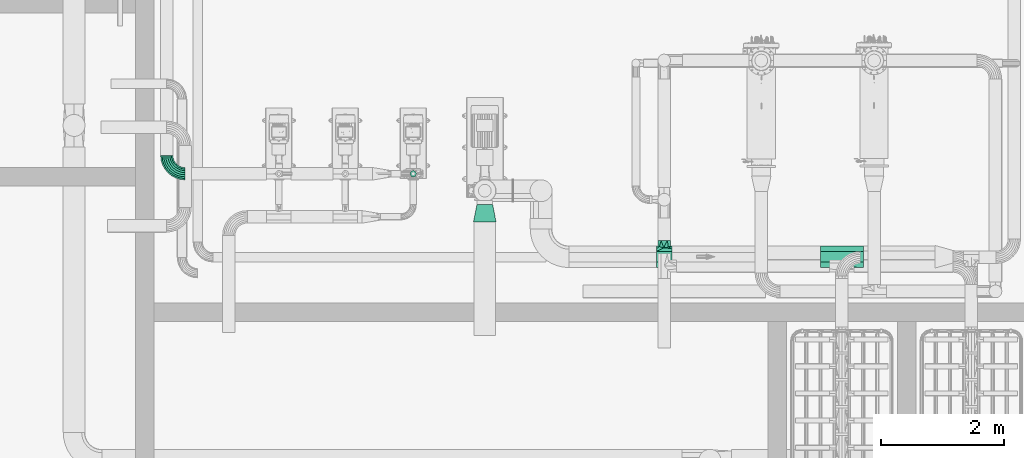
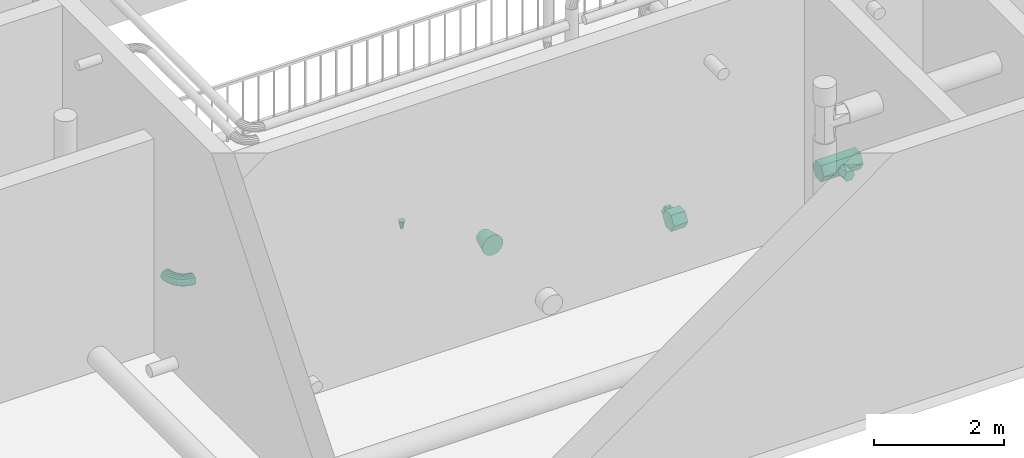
# One storey, part 26 of 28: 5 flow fittings.
"""IFC2X3 building model written with IfcOpenShell, lengths in millimetres."""

from ifc_helpers import new_model, entity, si_unit, converted_unit, direction, frame, origin, place, context, subcontext, project, spatial, faceted_brep, source, transform, mapped, material, type_object, type_shapes, element, save


model = new_model("IFC2X3")

# Units and contexts
model_context = context("Model", 3, precision=0.01, world=origin(), true_north=direction((6.123031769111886e-17, 1.0)))
body_context = subcontext(model_context, "Body", "Model", "MODEL_VIEW")
ifc_project = project(units=[si_unit("LENGTHUNIT", "METRE", prefix="MILLI"), converted_unit("PLANEANGLEUNIT", "DEGREE", entity("IfcPlaneAngleMeasure", 0.017453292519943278), si_unit("PLANEANGLEUNIT", "RADIAN"), dimensions=[0, 0, 0, 0, 0, 0, 0]), si_unit("AREAUNIT", "SQUARE_METRE")], contexts=[model_context])

# Site, building, storey
site_placement = place(None, frame((7776.576483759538, 118.3519876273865, 0.0)))
site = spatial("IfcSite", under=ifc_project, at=site_placement, Name="Default", CompositionType="ELEMENT")
building_placement = place(site_placement, origin())
building = spatial("IfcBuilding", under=site, at=building_placement, Name="Bygning (endres i Project Information)", CompositionType="ELEMENT")
storey_placement = place(building_placement, frame((0.0, 0.0, 14000.0)))
storey = spatial("IfcBuildingStorey", under=building, at=storey_placement, Name="Plan U1 - Arbeid", CompositionType="ELEMENT", Elevation=14000.000000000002)

# Flow fittings
ifc_material_1 = material(Name="SS 2343 Rustfritt stål, prosessrør, generisk")
pipe_fitting_type_1 = type_object("IfcPipeFittingType", Name="VA_prosess_rustfritt_T_D=L:T-rør_prosess_D=L", PredefinedType="NOTDEFINED", material=ifc_material_1)
shared_shape_1 = source(origin(), body_context, "Body", "Brep", [
    faceted_brep([(-350.0, -175.0, 0.0), (-350.0, -131.24999999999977, 75.77722283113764), (-350.0, -87.50000000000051, 151.55444566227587), (-350.0, 0.0, 151.55444566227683), (-350.0, 87.49999999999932, 151.55444566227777), (-350.0, 131.25000000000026, 75.77722283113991), (-350.0, 175.0, 0.0), (-350.0, 131.25000000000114, -75.77722283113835), (-350.0, 87.50000000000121, -151.5544456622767), (-350.0, 0.0, -151.55444566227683), (-350.0, -87.49999999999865, -151.55444566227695), (-350.0, -131.2499999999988, -75.77722283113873), (350.0, 175.0, 0.0), (350.0, 119.86366475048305, 95.49893399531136), (350.0, 87.4999999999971, 151.55444566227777), (350.0, 0.0, 151.55444566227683), (350.0, -87.50000000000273, 151.55444566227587), (350.0, -131.25000000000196, 75.77722283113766), (350.0, -175.0, 0.0), (350.0, -131.25000000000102, -75.77722283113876), (350.0, -87.50000000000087, -151.55444566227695), (350.0, 0.0, -151.55444566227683), (350.0, 87.49999999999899, -151.5544456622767), (350.0, 131.2499999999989, -75.77722283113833), (100.0, -175.0, 0.0), (78.66194669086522, -163.74584531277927, 61.74381056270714), (8.44316933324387, -143.86204193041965, 99.64292695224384), (-100.0, -175.0, 0.0), (-67.69200706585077, -158.76777954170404, 73.60565317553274), (-8.465752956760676, -143.86336911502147, -99.64101076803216), (67.68437248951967, -158.7645246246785, -73.61267364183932), (-78.66751262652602, -163.74851920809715, -61.73671887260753), (50.0, -350.0, -86.60254037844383), (75.0, -350.0, -43.30127018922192), (100.0, -350.0, 0.0), (75.0, -350.0, 43.301270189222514), (50.0, -350.0, 86.60254037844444), (0.0, -350.0, 86.60254037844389), (-50.0, -350.0, 86.60254037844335), (-75.0, -350.0, 43.30127018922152), (-100.0, -350.0, 0.0), (-75.0, -350.0, -43.301270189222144), (-50.0, -350.0, -86.60254037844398), (0.0, -350.0, -86.60254037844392)], [[[0, 1, 2, 3, 4, 5, 6, 7, 8, 9, 10, 11]], [[12, 13, 14, 15, 16, 17, 18, 19, 20, 21, 22, 23]], [[24, 18, 25]], [[17, 16, 26]], [[3, 2, 16, 15, 14, 4]], [[27, 28, 0]], [[25, 18, 17]], [[0, 28, 1]], [[26, 1, 28]], [[4, 14, 13, 12, 6, 5]], [[2, 1, 26]], [[2, 26, 16]], [[26, 25, 17]], [[29, 10, 20]], [[23, 22, 8, 7, 6, 12]], [[21, 20, 10, 9, 8, 22]], [[30, 18, 24]], [[29, 20, 19]], [[29, 19, 30]], [[11, 10, 29]], [[31, 0, 11]], [[27, 0, 31]], [[11, 29, 31]], [[30, 19, 18]], [[32, 33, 34, 35, 36, 37, 38, 39, 40, 41, 42, 43]], [[27, 39, 28]], [[39, 27, 40]], [[25, 36, 35]], [[26, 28, 38]], [[24, 35, 34]], [[26, 36, 25]], [[39, 38, 28]], [[26, 38, 37, 36]], [[35, 24, 25]], [[24, 33, 30]], [[33, 24, 34]], [[31, 42, 41]], [[29, 30, 32]], [[27, 41, 40]], [[29, 42, 31]], [[33, 32, 30]], [[29, 32, 43, 42]], [[41, 27, 31]]]),
])
type_shapes(pipe_fitting_type_1, [shared_shape_1])
flow_fitting_1_placement = place(storey_placement, frame((28974.00137486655, 25247.757305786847, 203.0), z_axis=(0.0, 0.0, -1.0), x_axis=(-1.0, 0.0, 0.0)))
element("IfcFlowFitting", 1, at=flow_fitting_1_placement, inside=storey, type_object=pipe_fitting_type_1, material=ifc_material_1, Name="VA_prosess_rustfritt_T_D=L:T-rør_prosess_D=L", ObjectType="VA_prosess_rustfritt_T_D=L:T-rør_prosess_D=L", context=body_context, shape_type="MappedRepresentation", body=[
    mapped(shared_shape_1, transform((0.0, 0.0, 0.0), scale=1.0)),
])
pipe_fitting_type_2 = type_object("IfcPipeFittingType", Name="Overganger, konsentriske, rustfritt EN 1,4307304L:Standard", PredefinedType="NOTDEFINED", material=ifc_material_1)
shared_shape_2 = source(origin(), body_context, "Body", "Brep", [
    faceted_brep([(289.70000000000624, -47.57094048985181, 177.53716687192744), (289.7000000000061, -91.90000000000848, 159.17546921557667), (289.70000000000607, -129.96622638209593, 129.96622638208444), (289.700000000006, -159.17546921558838, 91.89999999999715), (289.70000000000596, -177.53716687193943, 47.570940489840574), (289.70000000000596, -183.80000000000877, 0.0), (289.70000000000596, -177.53716687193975, -47.57094048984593), (289.700000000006, -159.175469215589, -91.90000000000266), (289.70000000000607, -129.9662263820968, -129.9662263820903), (289.7000000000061, -91.90000000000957, -159.1754692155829), (289.70000000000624, -47.57094048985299, -177.5371668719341), (289.7000000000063, 0.0, -183.8000000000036), (289.70000000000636, 47.57094048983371, -177.5371668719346), (289.7000000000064, 91.89999999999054, -159.17546921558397), (289.70000000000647, 129.96622638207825, -129.96622638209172), (289.7000000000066, 159.1754692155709, -91.90000000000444), (289.7000000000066, 177.53716687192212, -47.57094048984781), (289.7000000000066, 183.79999999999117, 0.0), (289.7000000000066, 177.53716687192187, 47.57094048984), (289.7000000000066, 159.17546921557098, 91.89999999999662), (289.70000000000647, 129.96622638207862, 129.966226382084), (289.7000000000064, 91.89999999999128, 159.17546921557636), (289.70000000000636, 47.57094048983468, 177.53716687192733), (289.7000000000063, 0.0, 183.79999999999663), (0.0, 0.0, 127.0), (0.0, 39.245158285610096, 120.78417756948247), (0.0, 74.64872704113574, 102.74515828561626), (0.0, 102.7451582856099, 74.64872704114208), (0.0, 120.78417756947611, 39.245158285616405), (0.0, 127.0, 0.0), (0.0, 120.78417756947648, -39.245158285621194), (0.0, 102.74515828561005, -74.6487270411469), (0.0, 74.64872704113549, -102.74515828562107), (0.0, 39.24515828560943, -120.78417756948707), (0.0, 0.0, -127.0), (0.0, -39.24515828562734, -120.78417756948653), (0.0, -74.6487270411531, -102.74515828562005), (0.0, -102.74515828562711, -74.64872704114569), (0.0, -120.78417756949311, -39.24515828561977), (0.0, -127.0, 0.0), (0.0, -120.78417756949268, 39.24515828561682), (0.0, -102.7451582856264, 74.64872704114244), (0.0, -74.64872704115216, 102.74515828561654), (0.0, -39.245158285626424, 120.7841775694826)], [[[0, 1, 2, 3, 4, 5, 6, 7, 8, 9, 10, 11, 12, 13, 14, 15, 16, 17, 18, 19, 20, 21, 22, 23]], [[24, 25, 26, 27, 28, 29, 30, 31, 32, 33, 34, 35, 36, 37, 38, 39, 40, 41, 42, 43]], [[6, 39, 38]], [[37, 7, 38]], [[9, 36, 35]], [[8, 37, 36]], [[10, 35, 34]], [[6, 5, 39]], [[7, 6, 38]], [[36, 9, 8]], [[8, 7, 37]], [[10, 9, 35]], [[34, 11, 10]], [[11, 34, 12]], [[12, 34, 33]], [[32, 13, 33]], [[15, 31, 30]], [[14, 32, 31]], [[16, 30, 29]], [[33, 13, 12]], [[32, 14, 13]], [[15, 14, 31]], [[30, 16, 15]], [[29, 17, 16]], [[18, 29, 28]], [[27, 19, 28]], [[21, 26, 25]], [[20, 27, 26]], [[22, 25, 24]], [[18, 17, 29]], [[19, 18, 28]], [[26, 21, 20]], [[20, 19, 27]], [[22, 21, 25]], [[24, 23, 22]], [[23, 24, 0]], [[0, 24, 43]], [[42, 1, 43]], [[3, 41, 40]], [[2, 42, 41]], [[4, 40, 39]], [[43, 1, 0]], [[42, 2, 1]], [[3, 2, 41]], [[40, 4, 3]], [[39, 5, 4]]]),
])
type_shapes(pipe_fitting_type_2, [shared_shape_2])
flow_fitting_2_placement = place(storey_placement, frame((23184.001374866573, 26098.199911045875, 380.0), z_axis=(0.0, 0.0, 1.0), x_axis=(0.0, -1.0, 0.0)))
element("IfcFlowFitting", 2, at=flow_fitting_2_placement, inside=storey, type_object=pipe_fitting_type_2, material=ifc_material_1, Name="Overganger, konsentriske, rustfritt EN 1,4307304L:Standard", ObjectType="Overganger, konsentriske, rustfritt EN 1,4307304L:Standard", context=body_context, shape_type="MappedRepresentation", body=[
    mapped(shared_shape_2, transform((0.0, 0.0, 0.0), scale=1.0)),
])
pipe_fitting_type_3 = type_object("IfcPipeFittingType", Name="Overganger, konsentriske, rustfritt EN 1,4307304L:Standard", PredefinedType="NOTDEFINED", material=ifc_material_1)
shared_shape_3 = source(origin(), body_context, "Body", "Brep", [
    faceted_brep([(150.0, -27.0, 0.0), (150.0, -24.42172942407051, -7.93510090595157), (150.0, -21.843458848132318, -15.870201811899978), (150.0, -15.093458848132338, -20.774363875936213), (150.0, -8.343458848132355, -25.678525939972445), (150.0, 0.0, -25.67852593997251), (150.0, 8.343458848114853, -25.678525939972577), (150.0, 15.093458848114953, -20.77436387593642), (150.0, 21.843458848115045, -15.870201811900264), (150.0, 24.421729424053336, -7.93510090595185), (150.0, 27.0, 0.0), (150.0, 24.421729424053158, 7.935100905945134), (150.0, 21.843458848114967, 15.870201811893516), (150.0, 15.093458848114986, 20.774363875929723), (150.0, 8.343458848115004, 25.678525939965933), (150.0, 0.0, 25.67852593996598), (150.0, -8.343458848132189, 25.678525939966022), (150.0, -15.09345884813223, 20.774363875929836), (150.0, -21.843458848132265, 15.87020181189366), (150.0, -24.421729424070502, 7.935100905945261), (0.0, -46.85038113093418, -22.561954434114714), (0.0, -49.425190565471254, -11.280977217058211), (0.0, -52.0, 0.0), (0.0, -49.425190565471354, 11.280977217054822), (0.0, -46.85038113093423, 22.56195443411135), (0.0, -39.63592541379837, 31.608595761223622), (0.0, -32.4214696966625, 40.655237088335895), (0.0, -21.99627913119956, 45.6757442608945), (0.0, -11.571088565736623, 50.6962514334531), (0.0, 0.0, 50.69625143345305), (0.0, 11.571088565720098, 50.69625143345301), (0.0, 21.996279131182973, 45.67574426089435), (0.0, 32.42146969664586, 40.655237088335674), (0.0, 39.63592541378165, 31.608595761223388), (0.0, 46.85038113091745, 22.56195443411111), (0.0, 49.42519056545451, 11.280977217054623), (0.0, 52.0, 0.0), (0.0, 49.42519056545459, -11.280977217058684), (0.0, 46.850381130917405, -22.561954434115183), (0.0, 39.6359254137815, -31.6085957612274), (0.0, 32.42146969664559, -40.65523708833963), (0.0, 21.99627913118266, -45.675744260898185), (0.0, 11.57108856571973, -50.69625143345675), (0.0, 0.0, -50.69625143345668), (0.0, -11.571088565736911, -50.69625143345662), (0.0, -21.996279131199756, -45.67574426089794), (0.0, -32.42146969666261, -40.655237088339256), (0.0, -39.6359254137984, -31.608595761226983)], [[[0, 1, 2, 3, 4, 5, 6, 7, 8, 9, 10, 11, 12, 13, 14, 15, 16, 17, 18, 19]], [[20, 21, 22, 23, 24, 25, 26, 27, 28, 29, 30, 31, 32, 33, 34, 35, 36, 37, 38, 39, 40, 41, 42, 43, 44, 45, 46, 47]], [[45, 3, 46]], [[40, 7, 41]], [[6, 42, 41]], [[37, 36, 10]], [[39, 38, 8, 40]], [[20, 2, 1]], [[44, 4, 45]], [[41, 7, 6]], [[47, 3, 2]], [[4, 44, 43, 42, 6, 5]], [[3, 45, 4]], [[21, 0, 22]], [[9, 8, 38]], [[2, 20, 47]], [[10, 9, 37]], [[0, 21, 1]], [[46, 3, 47]], [[40, 8, 7]], [[9, 38, 37]], [[21, 20, 1]], [[31, 13, 32]], [[26, 17, 27]], [[16, 28, 27]], [[23, 22, 0]], [[25, 24, 18, 26]], [[34, 12, 11]], [[30, 14, 31]], [[27, 17, 16]], [[33, 13, 12]], [[14, 30, 29, 28, 16, 15]], [[13, 31, 14]], [[35, 10, 36]], [[19, 18, 24]], [[12, 34, 33]], [[0, 19, 23]], [[10, 35, 11]], [[32, 13, 33]], [[26, 18, 17]], [[19, 24, 23]], [[35, 34, 11]]]),
])
type_shapes(pipe_fitting_type_3, [shared_shape_3])
flow_fitting_3_placement = place(storey_placement, frame((22024.001374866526, 26593.120379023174, 785.0123799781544), z_axis=(0.0, -1.0, 0.0), x_axis=(0.0, 0.0, -1.0)))
element("IfcFlowFitting", 3, at=flow_fitting_3_placement, inside=storey, type_object=pipe_fitting_type_3, material=ifc_material_1, Name="Overganger, konsentriske, rustfritt EN 1,4307304L:Standard", ObjectType="Overganger, konsentriske, rustfritt EN 1,4307304L:Standard", context=body_context, shape_type="MappedRepresentation", body=[
    mapped(shared_shape_3, transform((0.0, 0.0, 0.0), scale=1.0)),
])
pipe_fitting_type_4 = type_object("IfcPipeFittingType", Name="VA_prosess_rustfritt_bend_D+100:VA_prosess_rustfritt_bend_D+100", PredefinedType="NOTDEFINED", material=ifc_material_1)
shared_shape_4 = source(origin(), body_context, "Body", "Brep", [
    faceted_brep([(-221.96425137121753, -92.31409738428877, 0.0), (-223.14079109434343, -86.39923862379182, 34.202014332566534), (-300.000454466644, -93.96926207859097, 34.202014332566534), (-300.000454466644, -100.0, 0.0), (-226.52850220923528, -69.36808160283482, 64.27876096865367), (-300.00045446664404, -76.60444431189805, 64.27876096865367), (-231.71877675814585, -43.27483521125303, 86.60254037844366), (-300.0004544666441, -50.0, 86.60254037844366), (-238.08559103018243, -11.266730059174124, 98.48077530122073), (-300.0004544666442, -17.36481776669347, 98.48077530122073), (-244.86101325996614, 22.79558398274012, 98.48077530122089), (-300.00045446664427, 17.36481776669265, 98.48077530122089), (-251.22782753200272, 54.803689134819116, 86.60254037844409), (-300.0004544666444, 50.0, 86.60254037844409), (-256.4181020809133, 80.89693552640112, 64.27876096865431), (-300.0004544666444, 76.60444431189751, 64.27876096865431), (-259.80581319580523, 97.92809254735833, 34.202014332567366), (-300.0004544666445, 93.96926207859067, 34.202014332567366), (-260.9823529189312, 103.84295130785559, 0.0), (-300.0004544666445, 100.0, 0.0), (-259.8058131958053, 97.92809254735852, -34.20201433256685), (-300.0004544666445, 93.96926207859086, -34.20201433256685), (-256.4181020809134, 80.89693552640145, -64.2787609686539), (-300.0004544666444, 76.60444431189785, -64.2787609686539), (-251.2278275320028, 54.80368913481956, -86.60254037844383), (-300.0004544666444, 50.0, -86.60254037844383), (-244.86101325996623, 22.795583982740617, -98.48077530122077), (-300.00045446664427, 17.364817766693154, -98.48077530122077), (-238.08559103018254, -11.266730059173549, -98.48077530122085), (-300.0004544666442, -17.36481776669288, -98.48077530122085), (-231.71877675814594, -43.27483521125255, -86.60254037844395), (-300.0004544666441, -50.0, -86.60254037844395), (-226.52850220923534, -69.36808160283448, -64.27876096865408), (-300.00045446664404, -76.6044443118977, -64.27876096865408), (-223.14079109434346, -86.3992386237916, -34.2020143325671), (-300.000454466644, -93.96926207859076, -34.2020143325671), (-146.92694156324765, -69.5517550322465, 0.0), (-149.23480716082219, -63.980080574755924, 34.202014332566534), (-155.8800413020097, -47.937083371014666, 64.27876096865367), (-166.06113067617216, -23.357785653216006, 86.60254037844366), (-178.5500856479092, 6.793186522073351, 98.48077530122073), (-191.84055393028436, 38.879180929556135, 98.48077530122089), (-204.32950890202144, 69.03015310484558, 86.60254037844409), (-214.5105982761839, 93.60945082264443, 64.27876096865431), (-221.1558324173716, 109.6524480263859, 34.202014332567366), (-223.46369801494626, 115.22412248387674, 0.0), (-221.15583241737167, 109.65244802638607, -34.20201433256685), (-214.51059827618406, 93.60945082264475, -64.2787609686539), (-204.32950890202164, 69.030153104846, -86.60254037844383), (-191.84055393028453, 38.879180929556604, -98.48077530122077), (-178.55008564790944, 6.793186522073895, -98.48077530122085), (-166.06113067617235, -23.357785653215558, -86.60254037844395), (-155.88004130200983, -47.93708337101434, -64.27876096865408), (-149.23480716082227, -63.980080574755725, -34.2020143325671), (-77.77217232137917, -32.587718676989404, 0.0), (-81.12267364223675, -27.5733452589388, 34.202014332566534), (-90.77005769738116, -13.135032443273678, 64.27876096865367), (-105.55070758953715, 8.985746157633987, 86.60254037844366), (-123.68185880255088, 36.12089817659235, 98.48077530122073), (-142.97662691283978, 64.99752380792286, 98.48077530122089), (-161.10777812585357, 92.1326758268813, 86.60254037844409), (-175.88842801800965, 114.25345442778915, 64.27876096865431), (-185.5358120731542, 128.69176724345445, 34.202014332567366), (-188.88631339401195, 133.7061406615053, 0.0), (-185.53581207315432, 128.6917672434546, -34.20201433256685), (-175.88842801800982, 114.25345442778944, -64.2787609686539), (-161.1077781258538, 92.13267582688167, -86.60254037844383), (-142.97662691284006, 64.99752380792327, -98.48077530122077), (-123.6818588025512, 36.12089817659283, -98.48077530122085), (-105.55070758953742, 8.985746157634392, -86.60254037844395), (-90.77005769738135, -13.135032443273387, -64.27876096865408), (-81.12267364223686, -27.57334525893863, -34.2020143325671), (-17.15752775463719, 17.15750176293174, 0.0), (-21.421906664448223, 21.421874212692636, 34.202014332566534), (-33.700696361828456, 33.70064530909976, 64.27876096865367), (-52.51289359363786, 52.51281404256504, 86.60254037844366), (-75.58946973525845, 75.58935522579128, 98.48077530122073), (-100.14704913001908, 100.14689741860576, 98.48077530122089), (-123.22362527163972, 123.22343860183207, 86.60254037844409), (-142.03582250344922, 142.03560733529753, 64.27876096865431), (-154.31461220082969, 154.31437843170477, 34.202014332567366), (-158.5789911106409, 158.57875088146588, 0.0), (-154.3146122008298, 154.3143784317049, -34.20201433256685), (-142.03582250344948, 142.03560733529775, -64.2787609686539), (-123.22362527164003, 123.22343860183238, -86.60254037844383), (-100.14704913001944, 100.14689741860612, -98.48077530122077), (-75.58946973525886, 75.58935522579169, -98.48077530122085), (-52.5128935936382, 52.51281404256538, -86.60254037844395), (-33.70069636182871, 33.70064530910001, -64.27876096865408), (-21.421906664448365, 21.421874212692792, -34.2020143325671), (32.58760086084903, 77.77222168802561, 0.0), (27.57322236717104, 81.12271541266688, 34.202014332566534), (13.13489493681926, 90.77007759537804, 64.27876096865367), (-8.985906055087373, 105.55069397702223, 86.60254037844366), (-36.12108554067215, 123.68180408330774, 98.48077530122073), (-64.9977404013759, 142.97652844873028, 98.48077530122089), (-92.13291988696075, 161.10763855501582, 86.60254037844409), (-114.2537208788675, 175.88825493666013, 64.27876096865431), (-128.69204830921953, 185.5356171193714, 34.202014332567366), (-133.70642680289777, 188.88611084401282, 0.0), (-128.69204830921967, 185.5356171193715, -34.20201433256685), (-114.25372087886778, 175.88825493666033, -64.2787609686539), (-92.13291988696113, 161.10763855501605, -86.60254037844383), (-64.99774040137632, 142.97652844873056, -98.48077530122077), (-36.12108554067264, 123.68180408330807, -98.48077530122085), (-8.98590605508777, 105.5506939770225, -86.60254037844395), (13.134894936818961, 90.77007759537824, -64.27876096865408), (27.573222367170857, 81.122715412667, -34.2020143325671), (69.55153245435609, 146.92704692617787, 0.0), (63.97985450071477, 149.23490408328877, 34.202014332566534), (47.93684723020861, 155.88011392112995, 64.27876096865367), (23.357534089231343, 166.06116606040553, 86.60254037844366), (-6.793457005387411, 178.55007535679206, 98.48077530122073), (-38.879471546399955, 191.8404950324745, 98.48077530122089), (-69.0304626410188, 204.32940432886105, 86.60254037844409), (-93.6097757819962, 214.5104564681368, 64.27876096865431), (-109.65278305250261, 221.15566630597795, 34.202014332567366), (-115.22446100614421, 223.463523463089, 0.0), (-109.65278305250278, 221.15566630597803, -34.20201433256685), (-93.60977578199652, 214.5104564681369, -64.2787609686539), (-69.03046264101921, 204.32940432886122, -86.60254037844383), (-38.879471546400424, 191.84049503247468, -98.48077530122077), (-6.793457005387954, 178.5500753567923, -98.48077530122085), (23.357534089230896, 166.0611660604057, -86.60254037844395), (47.936847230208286, 155.88011392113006, -64.27876096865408), (63.97985450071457, 149.23490408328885, -34.2020143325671), (92.3137611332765, 221.9643912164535, 0.0), (86.3989005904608, 223.14092197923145, 34.202014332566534), (69.36773843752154, 226.5286072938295, 64.27876096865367), (43.274484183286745, 231.7188423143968, 86.60254037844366), (11.266369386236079, 238.08560809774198, 98.48077530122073), (-22.795954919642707, 244.8609787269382, 98.48077530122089), (-54.80406971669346, 251.2277445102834, 86.60254037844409), (-80.89732397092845, 256.41797953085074, 64.27876096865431), (-97.92848612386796, 259.80566484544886, 34.202014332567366), (-103.84334666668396, 260.98219560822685, 0.0), (-97.92848612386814, 259.80566484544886, -34.20201433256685), (-80.89732397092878, 256.4179795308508, -64.2787609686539), (-54.8040697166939, 251.2277445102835, -86.60254037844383), (-22.795954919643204, 244.8609787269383, -98.48077530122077), (11.2663693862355, 238.0856080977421, -98.48077530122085), (43.27448418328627, 231.71884231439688, -86.60254037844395), (69.3677384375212, 226.5286072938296, -64.27876096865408), (86.3989005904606, 223.1409219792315, -34.2020143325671), (99.99954553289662, 300.00060595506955, 0.0), (93.96880761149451, 300.000596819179, 34.202014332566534), (76.60398984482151, 300.00057051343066, 64.27876096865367), (49.999545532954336, 300.00053021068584, 86.60254037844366), (17.36436329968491, 300.00048077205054, 98.48077530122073), (-17.365272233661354, 300.0004281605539, 98.48077530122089), (-50.00045446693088, 300.0003787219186, 86.60254037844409), (-76.60489877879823, 300.00033841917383, 64.27876096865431), (-93.96971654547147, 300.0003121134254, 34.202014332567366), (-100.00045446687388, 300.0003029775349, 0.0), (-93.96971654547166, 300.0003121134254, -34.20201433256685), (-76.60489877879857, 300.00033841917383, -64.2787609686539), (-50.00045446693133, 300.0003787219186, -86.60254037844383), (-17.36527223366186, 300.0004281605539, -98.48077530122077), (17.36436329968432, 300.00048077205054, -98.48077530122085), (49.99954553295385, 300.00053021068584, -86.60254037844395), (76.60398984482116, 300.00057051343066, -64.27876096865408), (93.9688076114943, 300.000596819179, -34.2020143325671)], [[[0, 1, 2, 3]], [[1, 4, 5, 2]], [[4, 6, 7, 5]], [[6, 8, 9, 7]], [[8, 10, 11, 9]], [[10, 12, 13, 11]], [[12, 14, 15, 13]], [[14, 16, 17, 15]], [[16, 18, 19, 17]], [[18, 20, 21, 19]], [[20, 22, 23, 21]], [[22, 24, 25, 23]], [[24, 26, 27, 25]], [[26, 28, 29, 27]], [[28, 30, 31, 29]], [[30, 32, 33, 31]], [[32, 34, 35, 33]], [[34, 0, 3, 35]], [[36, 37, 1, 0]], [[37, 38, 4, 1]], [[38, 39, 6, 4]], [[39, 40, 8, 6]], [[40, 41, 10, 8]], [[41, 42, 12, 10]], [[42, 43, 14, 12]], [[43, 44, 16, 14]], [[44, 45, 18, 16]], [[45, 46, 20, 18]], [[46, 47, 22, 20]], [[47, 48, 24, 22]], [[48, 49, 26, 24]], [[49, 50, 28, 26]], [[50, 51, 30, 28]], [[51, 52, 32, 30]], [[52, 53, 34, 32]], [[53, 36, 0, 34]], [[54, 55, 37, 36]], [[55, 56, 38, 37]], [[56, 57, 39, 38]], [[57, 58, 40, 39]], [[58, 59, 41, 40]], [[59, 60, 42, 41]], [[60, 61, 43, 42]], [[61, 62, 44, 43]], [[62, 63, 45, 44]], [[63, 64, 46, 45]], [[64, 65, 47, 46]], [[65, 66, 48, 47]], [[66, 67, 49, 48]], [[67, 68, 50, 49]], [[68, 69, 51, 50]], [[69, 70, 52, 51]], [[70, 71, 53, 52]], [[71, 54, 36, 53]], [[72, 73, 55, 54]], [[73, 74, 56, 55]], [[74, 75, 57, 56]], [[75, 76, 58, 57]], [[76, 77, 59, 58]], [[77, 78, 60, 59]], [[78, 79, 61, 60]], [[79, 80, 62, 61]], [[80, 81, 63, 62]], [[81, 82, 64, 63]], [[82, 83, 65, 64]], [[83, 84, 66, 65]], [[84, 85, 67, 66]], [[85, 86, 68, 67]], [[86, 87, 69, 68]], [[87, 88, 70, 69]], [[88, 89, 71, 70]], [[89, 72, 54, 71]], [[90, 91, 73, 72]], [[91, 92, 74, 73]], [[92, 93, 75, 74]], [[93, 94, 76, 75]], [[94, 95, 77, 76]], [[95, 96, 78, 77]], [[96, 97, 79, 78]], [[97, 98, 80, 79]], [[98, 99, 81, 80]], [[99, 100, 82, 81]], [[100, 101, 83, 82]], [[101, 102, 84, 83]], [[102, 103, 85, 84]], [[103, 104, 86, 85]], [[104, 105, 87, 86]], [[105, 106, 88, 87]], [[106, 107, 89, 88]], [[107, 90, 72, 89]], [[108, 109, 91, 90]], [[109, 110, 92, 91]], [[110, 111, 93, 92]], [[111, 112, 94, 93]], [[112, 113, 95, 94]], [[113, 114, 96, 95]], [[114, 115, 97, 96]], [[115, 116, 98, 97]], [[116, 117, 99, 98]], [[117, 118, 100, 99]], [[118, 119, 101, 100]], [[119, 120, 102, 101]], [[120, 121, 103, 102]], [[121, 122, 104, 103]], [[122, 123, 105, 104]], [[123, 124, 106, 105]], [[124, 125, 107, 106]], [[125, 108, 90, 107]], [[126, 127, 109, 108]], [[127, 128, 110, 109]], [[128, 129, 111, 110]], [[129, 130, 112, 111]], [[130, 131, 113, 112]], [[131, 132, 114, 113]], [[132, 133, 115, 114]], [[133, 134, 116, 115]], [[134, 135, 117, 116]], [[135, 136, 118, 117]], [[136, 137, 119, 118]], [[137, 138, 120, 119]], [[138, 139, 121, 120]], [[139, 140, 122, 121]], [[140, 141, 123, 122]], [[141, 142, 124, 123]], [[142, 143, 125, 124]], [[143, 126, 108, 125]], [[144, 145, 127, 126]], [[145, 146, 128, 127]], [[146, 147, 129, 128]], [[147, 148, 130, 129]], [[148, 149, 131, 130]], [[149, 150, 132, 131]], [[150, 151, 133, 132]], [[151, 152, 134, 133]], [[152, 153, 135, 134]], [[153, 154, 136, 135]], [[154, 155, 137, 136]], [[155, 156, 138, 137]], [[156, 157, 139, 138]], [[157, 158, 140, 139]], [[158, 159, 141, 140]], [[159, 160, 142, 141]], [[160, 161, 143, 142]], [[161, 144, 126, 143]], [[3, 2, 5, 7, 9, 11, 13, 15, 17, 19, 21, 23, 25, 27, 29, 31, 33, 35]], [[161, 160, 159, 158, 157, 156, 155, 154, 153, 152, 151, 150, 149, 148, 147, 146, 145, 144]]]),
])
type_shapes(pipe_fitting_type_4, [shared_shape_4])
flow_fitting_4_placement = place(storey_placement, frame((18027.00137486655, 26593.11777117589, 985.0123799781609), z_axis=(0.0, 0.0, 1.0), x_axis=(0.0, -1.0, 0.0)))
element("IfcFlowFitting", 4, at=flow_fitting_4_placement, inside=storey, type_object=pipe_fitting_type_4, material=ifc_material_1, Name="VA_prosess_rustfritt_bend_D+100:VA_prosess_rustfritt_bend_D+100", ObjectType="VA_prosess_rustfritt_bend_D+100:VA_prosess_rustfritt_bend_D+100", context=body_context, shape_type="MappedRepresentation", body=[
    mapped(shared_shape_4, transform((0.0, 0.0, 0.0), scale=1.0)),
])
ifc_material_2 = material(Name="DF_Material1")
pipe_fitting_type_5 = type_object("IfcPipeFittingType", Name="VA_prosess_rustfritt_vinklet_innsveising:VA_prosess_rustfritt_vinklet_innsveising", PredefinedType="NOTDEFINED", material=ifc_material_2)
shared_shape_5 = source(origin(), body_context, "Body", "Brep", [
    faceted_brep([(125.17500000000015, 87.58750000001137, -151.70600010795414), (125.17500000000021, 136.57569628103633, -66.85595517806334), (125.1750000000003, 175.17500000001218, 0.0), (125.17500000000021, 136.57569545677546, 66.85595660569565), (125.17500000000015, 87.58750000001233, 151.70600010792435), (125.175, 0.0, 151.7060001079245), (125.17499999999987, -87.58749999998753, 151.7060001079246), (125.17499999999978, -131.3812499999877, 75.85300005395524), (125.17499999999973, -153.27812499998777, 37.92650002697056), (125.17499999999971, -175.17499999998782, 0.0), (125.17499999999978, -131.3812499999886, -75.85300005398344), (125.17499999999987, -87.58749999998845, -151.7060001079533), (125.175, 0.0, -151.7060001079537), (-125.17499999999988, 87.58750000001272, 151.70600010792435), (-125.17499999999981, 131.38125000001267, 75.85300005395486), (-125.17499999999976, 175.1750000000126, 0.0), (-125.17499999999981, 131.38125000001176, -75.85300005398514), (-125.17499999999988, 87.58750000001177, -151.70600010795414), (-125.17500000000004, 0.0, -151.7060001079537), (-125.17500000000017, -87.58749999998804, -151.7060001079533), (-125.17500000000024, -131.3812499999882, -75.85300005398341), (-125.1750000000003, -153.2781249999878, -37.92650002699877), (-125.17500000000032, -175.17499999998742, 0.0), (-125.17500000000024, -131.38124999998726, 75.85300005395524), (-125.17500000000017, -87.58749999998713, 151.7060001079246), (-125.17500000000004, 0.0, 151.7060001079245), (-89.487065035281, -169.53344697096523, -30.92623370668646), (-8.458419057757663, -143.95414149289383, -99.81726189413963), (-100.17499999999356, -175.17499999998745, 0.0), (100.17500000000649, -175.1749999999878, 0.0), (67.80998400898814, -158.90073609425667, -73.73490824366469), (-78.79913007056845, -163.89189394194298, -61.85246741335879), (8.48066104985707, -143.95545009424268, 99.81537463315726), (78.80449521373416, -163.89447356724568, 61.84563168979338), (89.48974760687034, -169.53473678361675, 30.92281584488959), (-67.80263982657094, -158.89760214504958, 73.74166161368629), (0.0, -262.7625000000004, -86.75409482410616), (50.08750000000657, -262.7625000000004, -86.75409482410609), (75.13125000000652, -262.7625000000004, -43.37704741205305), (100.17500000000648, -262.7625000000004, 0.0), (75.13125000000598, -262.7625000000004, 43.37704741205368), (50.08750000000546, -262.7625000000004, 86.75409482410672), (0.0, -262.7625000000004, 86.75409482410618), (-50.08749999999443, -262.7625000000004, 86.75409482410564), (-75.13124999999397, -262.7625000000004, 43.377047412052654), (-100.17499999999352, -262.7625000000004, 0.0), (-75.13124999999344, -262.7625000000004, -43.37704741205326), (-50.08749999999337, -262.7625000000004, -86.75409482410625)], [[[0, 1, 2, 3, 4, 5, 6, 7, 8, 9, 10, 11, 12]], [[13, 14, 15, 16, 17, 18, 19, 20, 21, 22, 23, 24, 25]], [[26, 22, 21]], [[20, 19, 27]], [[22, 26, 28]], [[0, 12, 11, 19, 18, 17]], [[9, 29, 30]], [[31, 21, 20]], [[9, 30, 10]], [[27, 10, 30]], [[17, 16, 15, 2, 1, 0]], [[11, 10, 27]], [[11, 27, 19]], [[21, 31, 26]], [[27, 31, 20]], [[24, 6, 5, 4, 13, 25]], [[32, 6, 24]], [[4, 3, 2, 15, 14, 13]], [[8, 33, 34]], [[35, 22, 28]], [[22, 35, 23]], [[32, 23, 35]], [[33, 7, 32]], [[33, 8, 7]], [[8, 34, 9]], [[9, 34, 29]], [[7, 6, 32]], [[32, 24, 23]], [[36, 37, 38, 39, 40, 41, 42, 43, 44, 45, 46, 47]], [[28, 44, 35]], [[32, 41, 33]], [[33, 41, 40]], [[32, 35, 43]], [[44, 43, 35]], [[29, 40, 39]], [[44, 28, 45]], [[32, 43, 42, 41]], [[40, 29, 34, 33]], [[29, 38, 30]], [[27, 47, 31]], [[31, 47, 46]], [[27, 30, 37]], [[28, 46, 45]], [[38, 29, 39]], [[38, 37, 30]], [[27, 37, 36, 47]], [[46, 28, 26, 31]]]),
])
type_shapes(pipe_fitting_type_5, [shared_shape_5])
flow_fitting_5_placement = place(storey_placement, frame((26093.826249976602, 25247.757305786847, 203.0), z_axis=(0.0, 0.0, -1.0), x_axis=(1.0, 0.0, 0.0)))
element("IfcFlowFitting", 5, at=flow_fitting_5_placement, inside=storey, type_object=pipe_fitting_type_5, material=ifc_material_2, Name="VA_prosess_rustfritt_vinklet_innsveising:VA_prosess_rustfritt_vinklet_innsveising", ObjectType="VA_prosess_rustfritt_vinklet_innsveising:VA_prosess_rustfritt_vinklet_innsveising", context=body_context, shape_type="MappedRepresentation", body=[
    mapped(shared_shape_5, transform((0.0, 0.0, 0.0), scale=1.0)),
])

save(model, "model.ifc")
